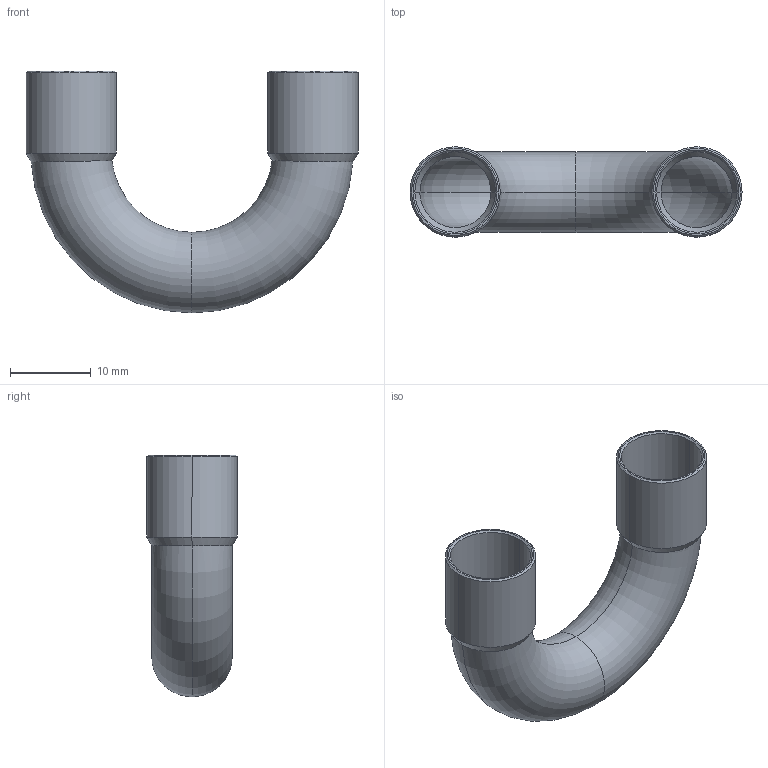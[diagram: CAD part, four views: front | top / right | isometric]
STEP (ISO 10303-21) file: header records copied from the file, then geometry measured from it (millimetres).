
FILE_DESCRIPTION((''),'2;1');
FILE_NAME('C:\sanha_work\5130\f\1506010.stp','2005-10-21T17:22:34',('Kris'),(''),'Autodesk Inventor 8','Autodesk Inventor 8','');
FILE_SCHEMA(('AUTOMOTIVE_DESIGN { 1 0 10303 214 1 1 1 1 }'));
Length unit declared in the file: millimetre
Products named in the file (1): 1506010
Bounding box: 41.2 x 11.2 x 30 mm (x, y, z)
Volume: 1240.6 mm3; surface area: 4168.5 mm2
Topology: 1 solids, 1 shells, 34 faces, 68 edges, 36 vertices
Faces by surface type: cone 12, bspline 9, torus 8, cylinder 4, plane 1
Entity records: 1131 total; most frequent: CARTESIAN_POINT 430, DIRECTION 148, ORIENTED_EDGE 136, EDGE_CURVE 68, AXIS2_PLACEMENT_3D 62, VERTEX_POINT 36, CIRCLE 36, EDGE_LOOP 36
